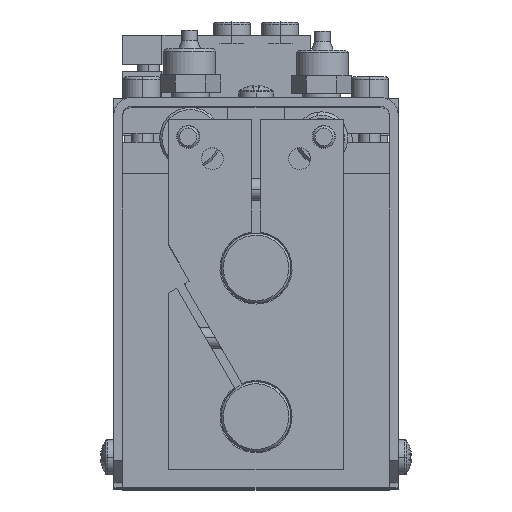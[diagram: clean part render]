
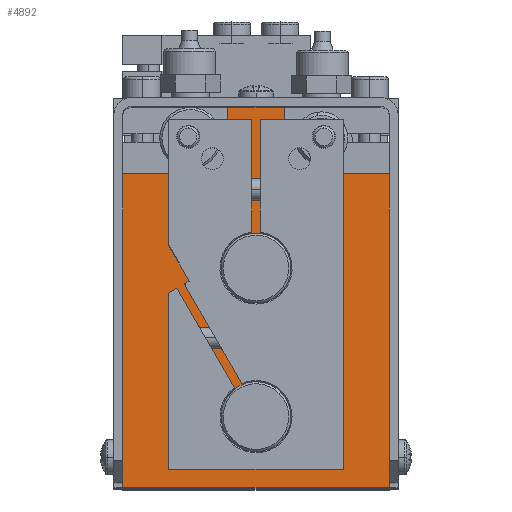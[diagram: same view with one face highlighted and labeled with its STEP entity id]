
A CAD part, top view. The second image highlights one B-rep face of the part: STEP entity #4892.
In plain terms, the highlighted planar face has unit normal (0, 0, 1) as drawn and (0, 0, -1) by its records, which use the part's own axes.
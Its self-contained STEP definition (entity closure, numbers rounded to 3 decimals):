
#4586 = EDGE_CURVE ( 'NONE', #4596, #4587, #14068, .T. ) ;
#4587 = VERTEX_POINT ( 'NONE', #14063 ) ;
#4596 = VERTEX_POINT ( 'NONE', #14047 ) ;
#4760 = EDGE_CURVE ( 'NONE', #4784, #4761, #14364, .T. ) ;
#4761 = VERTEX_POINT ( 'NONE', #14427 ) ;
#4784 = VERTEX_POINT ( 'NONE', #14444 ) ;
#4835 = EDGE_LOOP ( 'NONE', ( #4893, #4895 ) ) ;
#4876 = ORIENTED_EDGE ( 'NONE', *, *, #4877, .F. ) ;
#4877 = EDGE_CURVE ( 'NONE', #4905, #4903, #14607, .T. ) ;
#4878 = ORIENTED_EDGE ( 'NONE', *, *, #4879, .T. ) ;
#4879 = EDGE_CURVE ( 'NONE', #4905, #4880, #14603, .T. ) ;
#4880 = VERTEX_POINT ( 'NONE', #14598 ) ;
#4881 = ORIENTED_EDGE ( 'NONE', *, *, #4882, .F. ) ;
#4882 = EDGE_CURVE ( 'NONE', #4883, #4880, #14597, .T. ) ;
#4883 = VERTEX_POINT ( 'NONE', #14593 ) ;
#4884 = ORIENTED_EDGE ( 'NONE', *, *, #4885, .F. ) ;
#4885 = EDGE_CURVE ( 'NONE', #4886, #4883, #14592, .T. ) ;
#4886 = VERTEX_POINT ( 'NONE', #14655 ) ;
#4887 = ORIENTED_EDGE ( 'NONE', *, *, #4888, .F. ) ;
#4888 = EDGE_CURVE ( 'NONE', #4889, #4886, #14654, .T. ) ;
#4889 = VERTEX_POINT ( 'NONE', #14650 ) ;
#4890 = ORIENTED_EDGE ( 'NONE', *, *, #4945, .T. ) ;
#4891 = VERTEX_POINT ( 'NONE', #14649 ) ;
#4892 = ADVANCED_FACE ( 'NONE', ( #14648, #14647, #14646 ), #14645, .F. ) ;
#4893 = ORIENTED_EDGE ( 'NONE', *, *, #4894, .F. ) ;
#4894 = EDGE_CURVE ( 'NONE', #4587, #4596, #14640, .T. ) ;
#4895 = ORIENTED_EDGE ( 'NONE', *, *, #4586, .F. ) ;
#4896 = EDGE_LOOP ( 'NONE', ( #4897, #4899 ) ) ;
#4897 = ORIENTED_EDGE ( 'NONE', *, *, #4898, .F. ) ;
#4898 = EDGE_CURVE ( 'NONE', #4761, #4784, #14635, .T. ) ;
#4899 = ORIENTED_EDGE ( 'NONE', *, *, #4760, .F. ) ;
#4900 = EDGE_LOOP ( 'NONE', ( #4901, #4876, #4878, #4881, #4884, #4887, #4890, #4946, #4949, #4952 ) ) ;
#4901 = ORIENTED_EDGE ( 'NONE', *, *, #4902, .F. ) ;
#4902 = EDGE_CURVE ( 'NONE', #4903, #4904, #14630, .T. ) ;
#4903 = VERTEX_POINT ( 'NONE', #14623 ) ;
#4904 = VERTEX_POINT ( 'NONE', #14626 ) ;
#4905 = VERTEX_POINT ( 'NONE', #14624 ) ;
#4945 = EDGE_CURVE ( 'NONE', #4889, #4891, #14750, .T. ) ;
#4946 = ORIENTED_EDGE ( 'NONE', *, *, #4947, .F. ) ;
#4947 = EDGE_CURVE ( 'NONE', #4948, #4891, #14745, .T. ) ;
#4948 = VERTEX_POINT ( 'NONE', #14741 ) ;
#4949 = ORIENTED_EDGE ( 'NONE', *, *, #4950, .F. ) ;
#4950 = EDGE_CURVE ( 'NONE', #4951, #4948, #14740, .T. ) ;
#4951 = VERTEX_POINT ( 'NONE', #14736 ) ;
#4952 = ORIENTED_EDGE ( 'NONE', *, *, #4953, .T. ) ;
#4953 = EDGE_CURVE ( 'NONE', #4951, #4904, #14735, .T. ) ;
#13107 = DIRECTION ( 'NONE',  ( -1., 0., 0. ) ) ;
#14047 = CARTESIAN_POINT ( 'NONE',  ( 40.75, 50., -60. ) ) ;
#14063 = CARTESIAN_POINT ( 'NONE',  ( 24.25, 50., -60. ) ) ;
#14064 = DIRECTION ( 'NONE',  ( -1., 0., 0. ) ) ;
#14065 = DIRECTION ( 'NONE',  ( 0., 0., -1. ) ) ;
#14066 = CARTESIAN_POINT ( 'NONE',  ( 32.5, 50., -60. ) ) ;
#14067 = AXIS2_PLACEMENT_3D ( 'NONE', #14066, #14065, #14064 ) ;
#14068 = CIRCLE ( 'NONE', #14067, 8.25 ) ;
#14361 = DIRECTION ( 'NONE',  ( 0., 0., -1. ) ) ;
#14362 = CARTESIAN_POINT ( 'NONE',  ( 32.5, 16., -60. ) ) ;
#14363 = AXIS2_PLACEMENT_3D ( 'NONE', #14362, #14361, #13107 ) ;
#14364 = CIRCLE ( 'NONE', #14363, 8.25 ) ;
#14427 = CARTESIAN_POINT ( 'NONE',  ( 24.25, 16., -60. ) ) ;
#14444 = CARTESIAN_POINT ( 'NONE',  ( 40.75, 16., -60. ) ) ;
#14591 = CARTESIAN_POINT ( 'NONE',  ( 2., 87., -60. ) ) ;
#14592 = LINE ( 'NONE', #14591, #14657 ) ;
#14593 = CARTESIAN_POINT ( 'NONE',  ( 26., 87., -60. ) ) ;
#14594 = DIRECTION ( 'NONE',  ( 0., -1., 0. ) ) ;
#14595 = VECTOR ( 'NONE', #14594, 1000. ) ;
#14596 = CARTESIAN_POINT ( 'NONE',  ( 26., 87., -60. ) ) ;
#14597 = LINE ( 'NONE', #14596, #14595 ) ;
#14598 = CARTESIAN_POINT ( 'NONE',  ( 26., 74., -60. ) ) ;
#14599 = DIRECTION ( 'NONE',  ( 1., 0., 0. ) ) ;
#14600 = DIRECTION ( 'NONE',  ( 0., 0., 1. ) ) ;
#14601 = CARTESIAN_POINT ( 'NONE',  ( 24., 74., -60. ) ) ;
#14602 = AXIS2_PLACEMENT_3D ( 'NONE', #14601, #14600, #14599 ) ;
#14603 = CIRCLE ( 'NONE', #14602, 2. ) ;
#14604 = DIRECTION ( 'NONE',  ( -1., 0., 0. ) ) ;
#14605 = VECTOR ( 'NONE', #14604, 1000. ) ;
#14606 = CARTESIAN_POINT ( 'NONE',  ( 2., 72., -60. ) ) ;
#14607 = LINE ( 'NONE', #14606, #14605 ) ;
#14623 = CARTESIAN_POINT ( 'NONE',  ( 2., 72., -60. ) ) ;
#14624 = CARTESIAN_POINT ( 'NONE',  ( 24., 72., -60. ) ) ;
#14626 = CARTESIAN_POINT ( 'NONE',  ( 2., 0., -60. ) ) ;
#14627 = DIRECTION ( 'NONE',  ( 0., -1., 0. ) ) ;
#14628 = VECTOR ( 'NONE', #14627, 1000. ) ;
#14629 = CARTESIAN_POINT ( 'NONE',  ( 2., 89., -60. ) ) ;
#14630 = LINE ( 'NONE', #14629, #14628 ) ;
#14631 = DIRECTION ( 'NONE',  ( -1., 0., 0. ) ) ;
#14632 = DIRECTION ( 'NONE',  ( 0., 0., -1. ) ) ;
#14633 = CARTESIAN_POINT ( 'NONE',  ( 32.5, 16., -60. ) ) ;
#14634 = AXIS2_PLACEMENT_3D ( 'NONE', #14633, #14632, #14631 ) ;
#14635 = CIRCLE ( 'NONE', #14634, 8.25 ) ;
#14636 = DIRECTION ( 'NONE',  ( -1., 0., 0. ) ) ;
#14637 = DIRECTION ( 'NONE',  ( 0., 0., -1. ) ) ;
#14638 = CARTESIAN_POINT ( 'NONE',  ( 32.5, 50., -60. ) ) ;
#14639 = AXIS2_PLACEMENT_3D ( 'NONE', #14638, #14637, #14636 ) ;
#14640 = CIRCLE ( 'NONE', #14639, 8.25 ) ;
#14641 = DIRECTION ( 'NONE',  ( 1., 0., 0. ) ) ;
#14642 = DIRECTION ( 'NONE',  ( 0., 0., 1. ) ) ;
#14643 = CARTESIAN_POINT ( 'NONE',  ( 65., 0., -60. ) ) ;
#14644 = AXIS2_PLACEMENT_3D ( 'NONE', #14643, #14642, #14641 ) ;
#14645 = PLANE ( 'NONE',  #14644 ) ;
#14646 = FACE_OUTER_BOUND ( 'NONE', #4900, .T. ) ;
#14647 = FACE_BOUND ( 'NONE', #4896, .T. ) ;
#14648 = FACE_BOUND ( 'NONE', #4835, .T. ) ;
#14649 = CARTESIAN_POINT ( 'NONE',  ( 41., 72., -60. ) ) ;
#14650 = CARTESIAN_POINT ( 'NONE',  ( 39., 74., -60. ) ) ;
#14651 = DIRECTION ( 'NONE',  ( 0., 1., 0. ) ) ;
#14652 = VECTOR ( 'NONE', #14651, 1000. ) ;
#14653 = CARTESIAN_POINT ( 'NONE',  ( 39., 87., -60. ) ) ;
#14654 = LINE ( 'NONE', #14653, #14652 ) ;
#14655 = CARTESIAN_POINT ( 'NONE',  ( 39., 87., -60. ) ) ;
#14656 = DIRECTION ( 'NONE',  ( -1., 0., 0. ) ) ;
#14657 = VECTOR ( 'NONE', #14656, 1000. ) ;
#14732 = DIRECTION ( 'NONE',  ( -1., 0., 0. ) ) ;
#14733 = VECTOR ( 'NONE', #14732, 1000. ) ;
#14734 = CARTESIAN_POINT ( 'NONE',  ( 65., 0., -60. ) ) ;
#14735 = LINE ( 'NONE', #14734, #14733 ) ;
#14736 = CARTESIAN_POINT ( 'NONE',  ( 63., 0., -60. ) ) ;
#14737 = DIRECTION ( 'NONE',  ( 0., 1., 0. ) ) ;
#14738 = VECTOR ( 'NONE', #14737, 1000. ) ;
#14739 = CARTESIAN_POINT ( 'NONE',  ( 63., 89., -60. ) ) ;
#14740 = LINE ( 'NONE', #14739, #14738 ) ;
#14741 = CARTESIAN_POINT ( 'NONE',  ( 63., 72., -60. ) ) ;
#14742 = DIRECTION ( 'NONE',  ( -1., 0., 0. ) ) ;
#14743 = VECTOR ( 'NONE', #14742, 1000. ) ;
#14744 = CARTESIAN_POINT ( 'NONE',  ( 63., 72., -60. ) ) ;
#14745 = LINE ( 'NONE', #14744, #14743 ) ;
#14746 = DIRECTION ( 'NONE',  ( 1., 0., 0. ) ) ;
#14747 = DIRECTION ( 'NONE',  ( 0., 0., 1. ) ) ;
#14748 = CARTESIAN_POINT ( 'NONE',  ( 41., 74., -60. ) ) ;
#14749 = AXIS2_PLACEMENT_3D ( 'NONE', #14748, #14747, #14746 ) ;
#14750 = CIRCLE ( 'NONE', #14749, 2. ) ;
